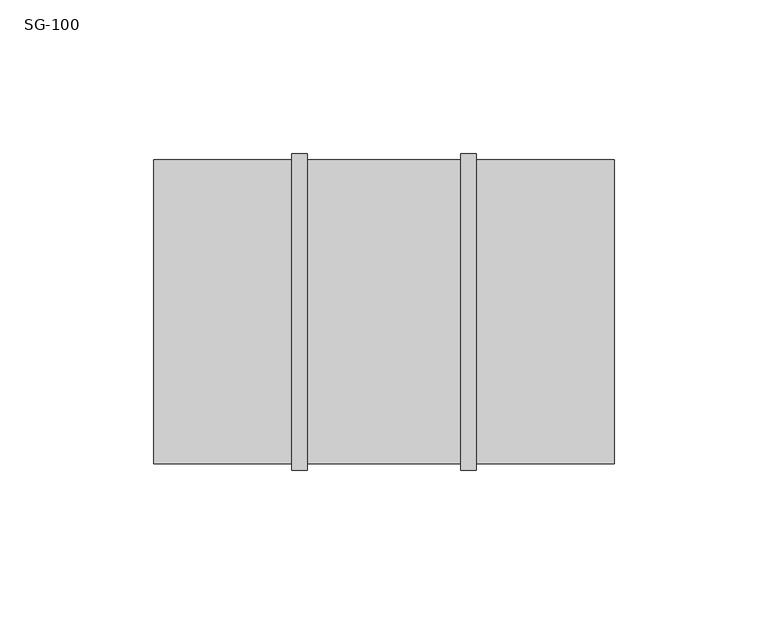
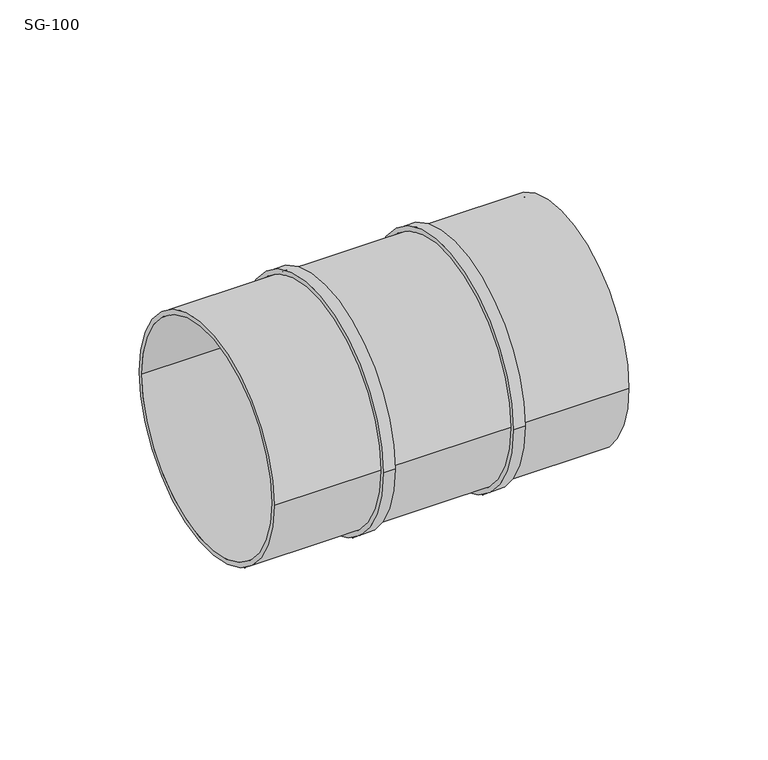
"""IFC4 building model written with IfcOpenShell, lengths in millimetres: damper geometry, СВ_ГибкаяВставка_КанальнаяКруглая_DN100-315_SG : SG-100."""

from ifc_helpers import new_model, si_unit, point, frame, origin, origin_2d, place, context, project, spatial, circle_curve, trimmed, segment, composite_curve, outline, extrude, source, transform, mapped, element, save


def sg_100_5ce94af0(model_context):
    return source(origin(), model_context, "Body", "SweptSolid", [
        extrude(outline(composite_curve([segment(trimmed(circle_curve(origin_2d(), 51.5), [point((-51.5, 0.0))], [point((51.5, 0.0))], False, "CARTESIAN"), True, "CONTINUOUS"), segment(trimmed(circle_curve(origin_2d(), 51.5), [point((51.5, 0.0))], [point((-51.5, 0.0))], False, "CARTESIAN"), True, "CONTINUOUS")], self_intersect=False), holes=[composite_curve([segment(trimmed(circle_curve(origin_2d(), 49.5), [point((-49.5, 0.0))], [point((49.5, 0.0))], True, "CARTESIAN"), True, "CONTINUOUS"), segment(trimmed(circle_curve(origin_2d(), 49.5), [point((49.5, 0.0))], [point((-49.5, 0.0))], True, "CARTESIAN"), True, "CONTINUOUS")], self_intersect=False)]), frame((25.0, 0.0, 0.0), z_axis=(1.0, 0.0, 0.0), x_axis=(0.0, 1.0, 0.0)), (0.0, 0.0, 1.0), 5.0),
        extrude(outline(composite_curve([segment(trimmed(circle_curve(origin_2d(), 51.5), [point((-51.5, 0.0))], [point((51.5, 0.0))], False, "CARTESIAN"), True, "CONTINUOUS"), segment(trimmed(circle_curve(origin_2d(), 51.5), [point((51.5, 0.0))], [point((-51.5, 0.0))], False, "CARTESIAN"), True, "CONTINUOUS")], self_intersect=False), holes=[composite_curve([segment(trimmed(circle_curve(origin_2d(), 49.5), [point((-49.5, 0.0))], [point((49.5, 0.0))], True, "CARTESIAN"), True, "CONTINUOUS"), segment(trimmed(circle_curve(origin_2d(), 49.5), [point((49.5, 0.0))], [point((-49.5, 0.0))], True, "CARTESIAN"), True, "CONTINUOUS")], self_intersect=False)]), frame((-30.0, 0.0, 0.0), z_axis=(1.0, 0.0, 0.0), x_axis=(0.0, 1.0, 0.0)), (0.0, 0.0, 1.0), 5.0),
        extrude(outline(composite_curve([segment(trimmed(circle_curve(origin_2d(), 49.5), [point((-49.5, 0.0))], [point((49.5, 0.0))], False, "CARTESIAN"), True, "CONTINUOUS"), segment(trimmed(circle_curve(origin_2d(), 49.5), [point((49.5, 0.0))], [point((-49.5, 0.0))], False, "CARTESIAN"), True, "CONTINUOUS")], self_intersect=False), holes=[composite_curve([segment(trimmed(circle_curve(origin_2d(), 47.5), [point((-47.5, 0.0))], [point((47.5, 0.0))], True, "CARTESIAN"), True, "CONTINUOUS"), segment(trimmed(circle_curve(origin_2d(), 47.5), [point((47.5, 0.0))], [point((-47.5, 0.0))], True, "CARTESIAN"), True, "CONTINUOUS")], self_intersect=False)]), frame((-75.0, 0.0, 0.0), z_axis=(1.0, 0.0, 0.0), x_axis=(0.0, 1.0, 0.0)), (0.0, 0.0, 1.0), 150.0),
    ])


if __name__ == "__main__":
    model = new_model("IFC4")
    model_context = context("Model", 3, world=origin())
    ifc_project = project(units=[si_unit("LENGTHUNIT", "METRE", prefix="MILLI")], contexts=[model_context])
    site = spatial("IfcSite", under=ifc_project)
    building = spatial("IfcBuilding", under=site)
    placement = place(None, origin())
    sg_100_shape = sg_100_5ce94af0(model_context)
    element("IfcDamper", 1, ObjectType="СВ_ГибкаяВставка_КанальнаяКруглая_DN100-315_SG : SG-100", at=placement, inside=building, context=model_context, shape_type="MappedRepresentation", body=[
        mapped(sg_100_shape, transform((0.0, 0.0, 0.0), x_axis=(1.0, 0.0, 0.0), y_axis=(0.0, 1.0, 0.0), z_axis=(0.0, 0.0, 1.0))),
    ])
    save(model, "model.ifc")
